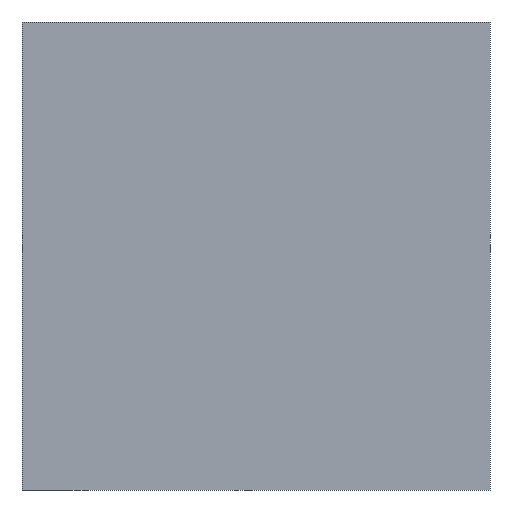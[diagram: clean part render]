
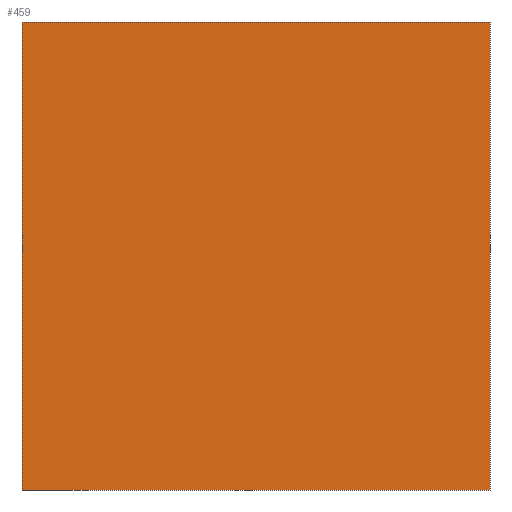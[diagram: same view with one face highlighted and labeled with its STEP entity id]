
A CAD part, front view. The second image highlights one B-rep face of the part: STEP entity #459.
In plain terms, the highlighted planar face has unit normal (0, -1, 0).
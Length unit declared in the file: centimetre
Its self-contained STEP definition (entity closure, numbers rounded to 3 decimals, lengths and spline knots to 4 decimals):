
#20 = VERTEX_POINT ( 'NONE', #326 ) ;
#31 = VERTEX_POINT ( 'NONE', #373 ) ;
#69 = CARTESIAN_POINT ( 'NONE',  ( 0., 0., 1000. ) ) ;
#72 = CARTESIAN_POINT ( 'NONE',  ( 1000., 0., 1000. ) ) ;
#85 = VECTOR ( 'NONE', #343, 100. ) ;
#99 = ORIENTED_EDGE ( 'NONE', *, *, #198, .T. ) ;
#100 = DIRECTION ( 'NONE',  ( 0., 0., -1. ) ) ;
#104 = CARTESIAN_POINT ( 'NONE',  ( 0., 0., 0. ) ) ;
#115 = VECTOR ( 'NONE', #100, 100. ) ;
#116 = PLANE ( 'NONE',  #362 ) ;
#117 = CARTESIAN_POINT ( 'NONE',  ( 0., 0., 1000. ) ) ;
#137 = EDGE_LOOP ( 'NONE', ( #99, #314, #464, #458 ) ) ;
#160 = CARTESIAN_POINT ( 'NONE',  ( 0., 0., 0. ) ) ;
#180 = EDGE_CURVE ( 'NONE', #404, #31, #233, .T. ) ;
#197 = LINE ( 'NONE', #160, #368 ) ;
#198 = EDGE_CURVE ( 'NONE', #296, #31, #197, .T. ) ;
#211 = VECTOR ( 'NONE', #409, 100. ) ;
#233 = LINE ( 'NONE', #306, #85 ) ;
#255 = LINE ( 'NONE', #69, #115 ) ;
#258 = LINE ( 'NONE', #452, #211 ) ;
#268 = DIRECTION ( 'NONE',  ( 0., 1., 0. ) ) ;
#296 = VERTEX_POINT ( 'NONE', #104 ) ;
#304 = EDGE_CURVE ( 'NONE', #20, #296, #255, .T. ) ;
#306 = CARTESIAN_POINT ( 'NONE',  ( 1000., 0., 1000. ) ) ;
#314 = ORIENTED_EDGE ( 'NONE', *, *, #180, .F. ) ;
#326 = CARTESIAN_POINT ( 'NONE',  ( 0., 0., 1000. ) ) ;
#331 = EDGE_CURVE ( 'NONE', #20, #404, #258, .T. ) ;
#343 = DIRECTION ( 'NONE',  ( 0., 0., -1. ) ) ;
#362 = AXIS2_PLACEMENT_3D ( 'NONE', #117, #268, #422 ) ;
#368 = VECTOR ( 'NONE', #386, 100. ) ;
#373 = CARTESIAN_POINT ( 'NONE',  ( 1000., 0., 0. ) ) ;
#386 = DIRECTION ( 'NONE',  ( 1., 0., 0. ) ) ;
#404 = VERTEX_POINT ( 'NONE', #72 ) ;
#409 = DIRECTION ( 'NONE',  ( 1., 0., 0. ) ) ;
#422 = DIRECTION ( 'NONE',  ( 0., 0., 1. ) ) ;
#452 = CARTESIAN_POINT ( 'NONE',  ( 0., 0., 1000. ) ) ;
#458 = ORIENTED_EDGE ( 'NONE', *, *, #304, .T. ) ;
#459 = ADVANCED_FACE ( 'NONE', ( #466 ), #116, .F. ) ;
#464 = ORIENTED_EDGE ( 'NONE', *, *, #331, .F. ) ;
#466 = FACE_OUTER_BOUND ( 'NONE', #137, .T. ) ;
